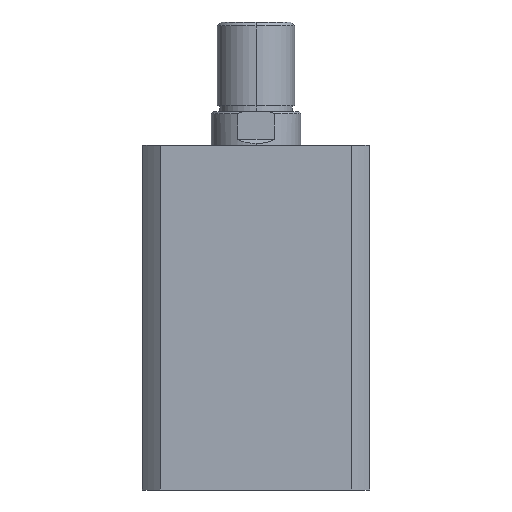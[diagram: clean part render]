
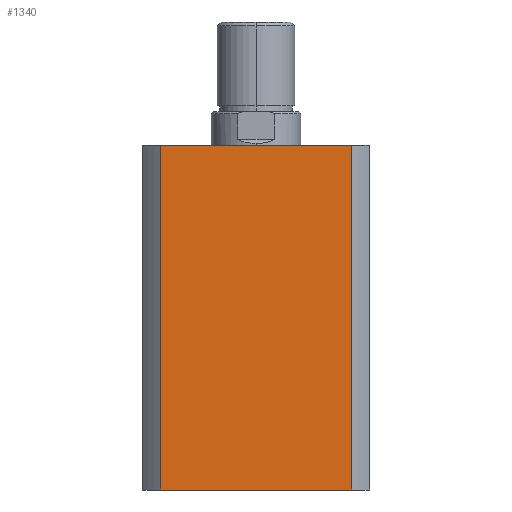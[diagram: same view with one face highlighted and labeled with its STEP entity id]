
A CAD part, left-side view. The second image highlights one B-rep face of the part: STEP entity #1340.
In plain terms, the highlighted planar face has unit normal (-1, 0, 0).
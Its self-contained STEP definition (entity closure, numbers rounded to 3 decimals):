
#457 = AXIS2_PLACEMENT_3D ( 'NONE', #886, #551, #879 ) ;
#551 = DIRECTION ( 'NONE',  ( 1., 0., 0. ) ) ;
#879 = DIRECTION ( 'NONE',  ( 0., 0., -1. ) ) ;
#886 = CARTESIAN_POINT ( 'NONE',  ( -57., 0., 173. ) ) ;
#955 = EDGE_LOOP ( 'NONE', ( #2008, #2009, #2010, #2011 ) ) ;
#978 = PLANE ( 'NONE',  #457 ) ;
#1340 = ADVANCED_FACE ( 'NONE', ( #4735 ), #978, .F. ) ;
#1475 = DIRECTION ( 'NONE',  ( 0., -1., 0. ) ) ;
#1476 = CARTESIAN_POINT ( 'NONE',  ( -57., 0., 173. ) ) ;
#1482 = DIRECTION ( 'NONE',  ( 0., 0., -1. ) ) ;
#1483 = CARTESIAN_POINT ( 'NONE',  ( -57., 47.971, 173. ) ) ;
#1491 = DIRECTION ( 'NONE',  ( 0., 0., -1. ) ) ;
#1492 = CARTESIAN_POINT ( 'NONE',  ( -57., -47.971, 173. ) ) ;
#1636 = CARTESIAN_POINT ( 'NONE',  ( -57., 0., 0. ) ) ;
#1638 = DIRECTION ( 'NONE',  ( 0., -1., 0. ) ) ;
#2008 = ORIENTED_EDGE ( 'NONE', *, *, #2549, .T. ) ;
#2009 = ORIENTED_EDGE ( 'NONE', *, *, #2577, .F. ) ;
#2010 = ORIENTED_EDGE ( 'NONE', *, *, #2578, .F. ) ;
#2011 = ORIENTED_EDGE ( 'NONE', *, *, #2575, .T. ) ;
#2549 = EDGE_CURVE ( 'NONE', #5039, #4994, #3767, .T. ) ;
#2575 = EDGE_CURVE ( 'NONE', #4592, #5039, #3800, .T. ) ;
#2577 = EDGE_CURVE ( 'NONE', #4555, #4994, #3804, .T. ) ;
#2578 = EDGE_CURVE ( 'NONE', #4592, #4555, #3805, .T. ) ;
#2926 = CARTESIAN_POINT ( 'NONE',  ( -57., 47.971, 173. ) ) ;
#2940 = CARTESIAN_POINT ( 'NONE',  ( -57., -47.971, 173. ) ) ;
#3089 = CARTESIAN_POINT ( 'NONE',  ( -57., -47.971, 0. ) ) ;
#3211 = CARTESIAN_POINT ( 'NONE',  ( -57., 47.971, 0. ) ) ;
#3767 = LINE ( 'NONE', #1636, #3771 ) ;
#3771 = VECTOR ( 'NONE', #1638, 1000. ) ;
#3800 = LINE ( 'NONE', #1483, #3803 ) ;
#3803 = VECTOR ( 'NONE', #1482, 1000. ) ;
#3804 = LINE ( 'NONE', #1492, #3806 ) ;
#3805 = LINE ( 'NONE', #1476, #3808 ) ;
#3806 = VECTOR ( 'NONE', #1491, 1000. ) ;
#3808 = VECTOR ( 'NONE', #1475, 1000. ) ;
#4555 = VERTEX_POINT ( 'NONE', #2940 ) ;
#4592 = VERTEX_POINT ( 'NONE', #2926 ) ;
#4735 = FACE_OUTER_BOUND ( 'NONE', #955, .T. ) ;
#4994 = VERTEX_POINT ( 'NONE', #3089 ) ;
#5039 = VERTEX_POINT ( 'NONE', #3211 ) ;
